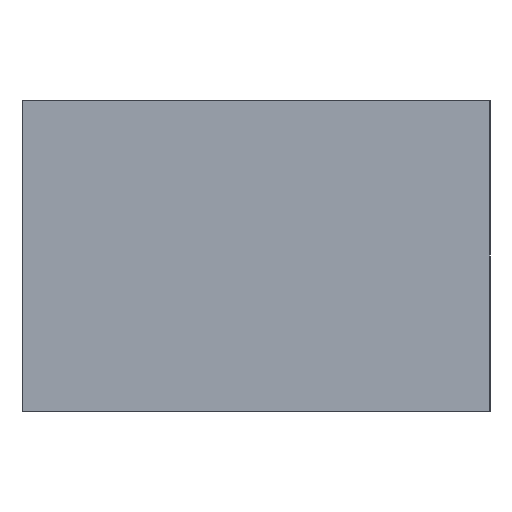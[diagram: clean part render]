
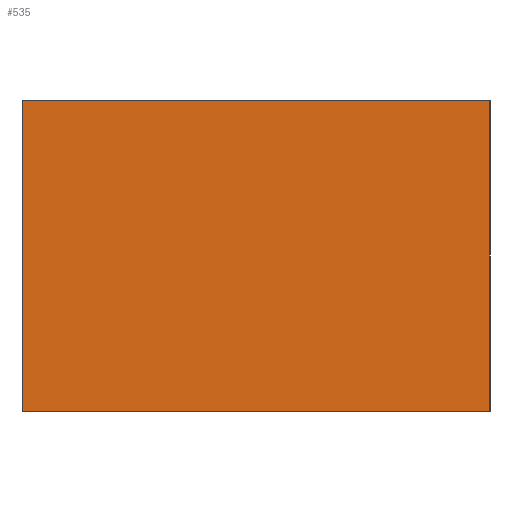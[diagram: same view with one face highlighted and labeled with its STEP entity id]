
A CAD part, left-side view. The second image highlights one B-rep face of the part: STEP entity #535.
In plain terms, the highlighted planar face has unit normal (-1, 0, 0).
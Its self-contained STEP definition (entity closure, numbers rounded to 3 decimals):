
#37=PLANE('',#584);
#41=LINE('',#763,#97);
#48=LINE('',#793,#104);
#52=LINE('',#799,#108);
#57=LINE('',#808,#113);
#97=VECTOR('',#614,599.);
#104=VECTOR('',#647,599.);
#108=VECTOR('',#655,398.);
#113=VECTOR('',#668,398.);
#188=FACE_OUTER_BOUND('',#224,.T.);
#224=EDGE_LOOP('',(#494,#495,#496,#497));
#249=VERTEX_POINT('',#756);
#251=VERTEX_POINT('',#761);
#257=VERTEX_POINT('',#782);
#260=VERTEX_POINT('',#789);
#296=EDGE_CURVE('',#251,#249,#41,.T.);
#311=EDGE_CURVE('',#257,#260,#48,.T.);
#315=EDGE_CURVE('',#249,#257,#52,.T.);
#320=EDGE_CURVE('',#251,#260,#57,.T.);
#494=ORIENTED_EDGE('',*,*,#296,.F.);
#495=ORIENTED_EDGE('',*,*,#320,.T.);
#496=ORIENTED_EDGE('',*,*,#311,.F.);
#497=ORIENTED_EDGE('',*,*,#315,.F.);
#535=ADVANCED_FACE('',(#188),#37,.T.);
#584=AXIS2_PLACEMENT_3D('',#884,#734,#735);
#614=DIRECTION('',(0.,1.,0.));
#647=DIRECTION('',(0.,-1.,0.));
#655=DIRECTION('',(0.,0.,1.));
#668=DIRECTION('',(0.,0.,1.));
#734=DIRECTION('center_axis',(-1.,0.,0.));
#735=DIRECTION('ref_axis',(0.,0.,1.));
#756=CARTESIAN_POINT('',(0.,599.,-399.));
#761=CARTESIAN_POINT('',(0.,0.,-399.));
#763=CARTESIAN_POINT('',(0.,0.,-399.));
#782=CARTESIAN_POINT('',(0.,599.,-1.));
#789=CARTESIAN_POINT('',(0.,0.,-1.));
#793=CARTESIAN_POINT('',(0.,0.,-1.));
#799=CARTESIAN_POINT('',(0.,599.,-300.));
#808=CARTESIAN_POINT('',(0.,0.,-400.));
#884=CARTESIAN_POINT('Origin',(0.,0.,-400.));
